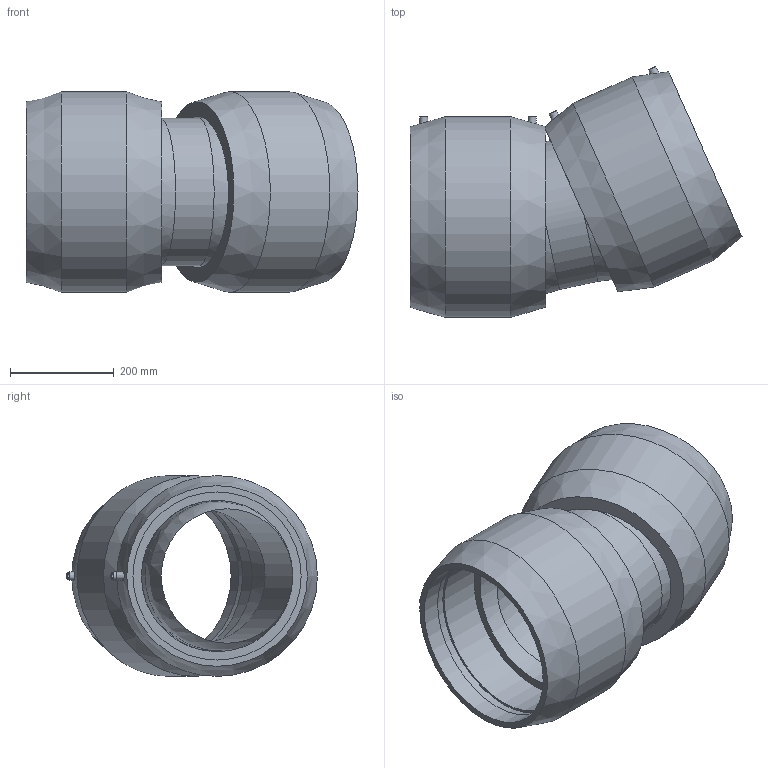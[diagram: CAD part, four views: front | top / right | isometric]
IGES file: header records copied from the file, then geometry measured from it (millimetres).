
Global section: file name: 5947B003120.ipt; native system: Autodesk Inventor 2019; preprocessor: unknown; author: KIM; date: 20210830.101218; units: inch
Bounding box: 638.52 x 482.52 x 386.08 mm (x, y, z)
Volume: 21397826.2 mm3; surface area: 1615169.4 mm2
Topology: 1 solids, 1 shells, 50 faces, 123 edges, 83 vertices
Faces by surface type: plane 20, revolution 13, cone 8, cylinder 7, sphere 2
Full cylindrical faces by diameter (mm): 4 x4, 283.709 x1, 386.08 x2
